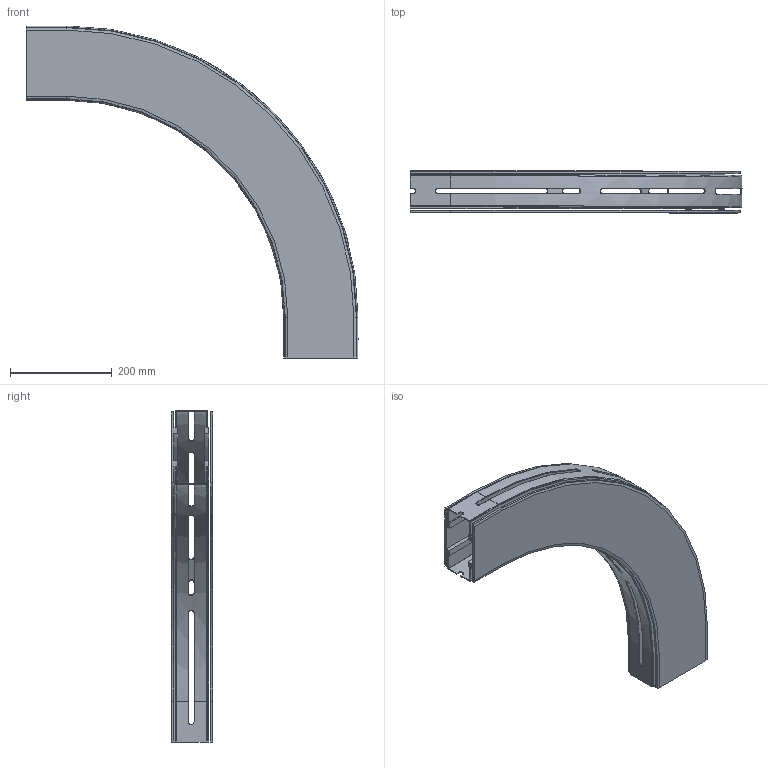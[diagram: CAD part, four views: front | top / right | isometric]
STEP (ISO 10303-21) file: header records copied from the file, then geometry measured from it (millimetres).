
FILE_DESCRIPTION((''),'2;1');
FILE_NAME('C:\Vault Klient\Projekt\Koncept konstruktion\Serie 540 Balk\540-5310.stp','2010-11-24T15:44:25',('Mathias'),(''),'Autodesk Inventor 2011','Autodesk Inventor 2011','');
FILE_SCHEMA(('AUTOMOTIVE_DESIGN { 1 0 10303 214 1 1 1 1 }'));
Length unit declared in the file: millimetre
Products named in the file (1): 540-5310
Bounding box: 653 x 82 x 653 mm (x, y, z)
Volume: 2134522.3 mm3; surface area: 1098663.3 mm2
Topology: 2 solids, 2 shells, 175 faces, 506 edges, 332 vertices
Faces by surface type: plane 111, cylinder 32, bspline 22, cone 6, torus 4
Entity records: 6318 total; most frequent: CARTESIAN_POINT 1664, ORIENTED_EDGE 1012, DIRECTION 870, EDGE_CURVE 506, VECTOR 362, LINE 362, VERTEX_POINT 332, AXIS2_PLACEMENT_3D 254
